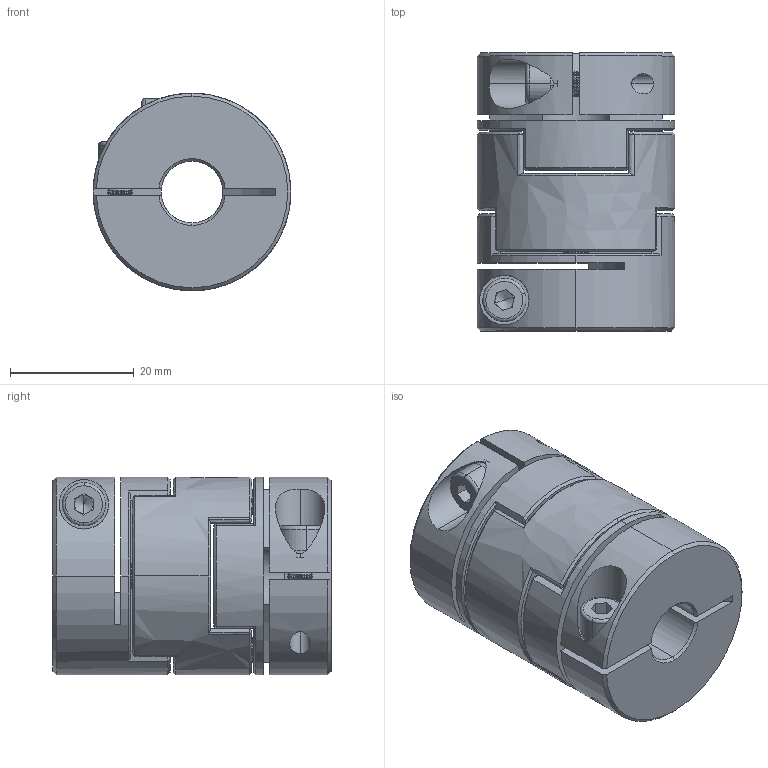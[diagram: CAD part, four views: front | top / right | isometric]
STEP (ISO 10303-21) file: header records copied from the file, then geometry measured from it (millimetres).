
FILE_DESCRIPTION (( 'STEP AP203' ), '1' );
FILE_NAME ('LZ-B-D32L45-10-12.STEP', '2021-10-29T06:43:43', ( '' ), ( '' ), 'SwSTEP 2.0', 'SolidWorks 2018', '' );
FILE_SCHEMA (( 'CONFIG_CONTROL_DESIGN' ));
Length unit declared in the file: millimetre
Products named in the file (1): LZ-B-D32L45-10-12
Bounding box: 32 x 45 x 32 mm (x, y, z)
Volume: 28732.7 mm3; surface area: 13162 mm2
Topology: 1 solids, 1 shells, 356 faces, 856 edges, 498 vertices
Faces by surface type: cone 118, cylinder 92, plane 84, bspline 54, torus 8
Entity records: 11145 total; most frequent: CARTESIAN_POINT 3197, ORIENTED_EDGE 1704, DIRECTION 1578, EDGE_CURVE 852, AXIS2_PLACEMENT_3D 619, VERTEX_POINT 498, EDGE_LOOP 382, ADVANCED_FACE 356
